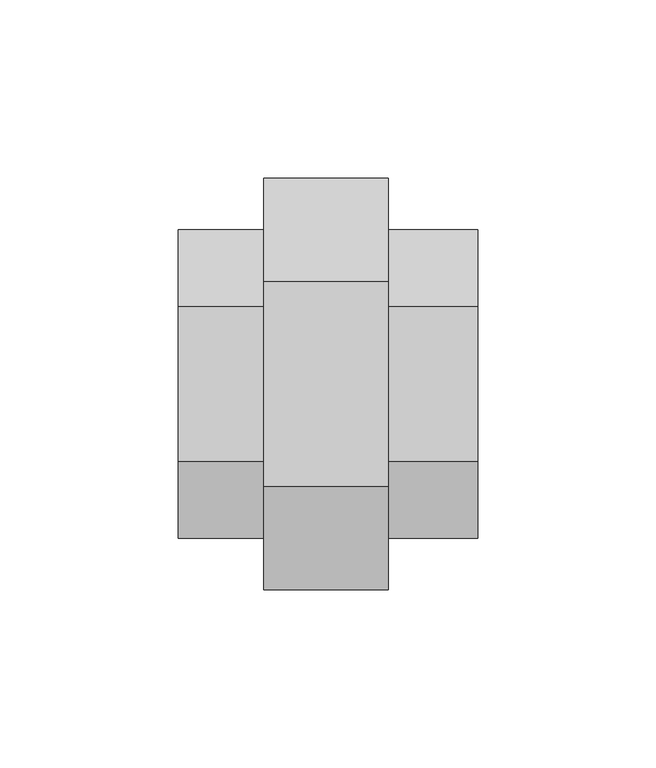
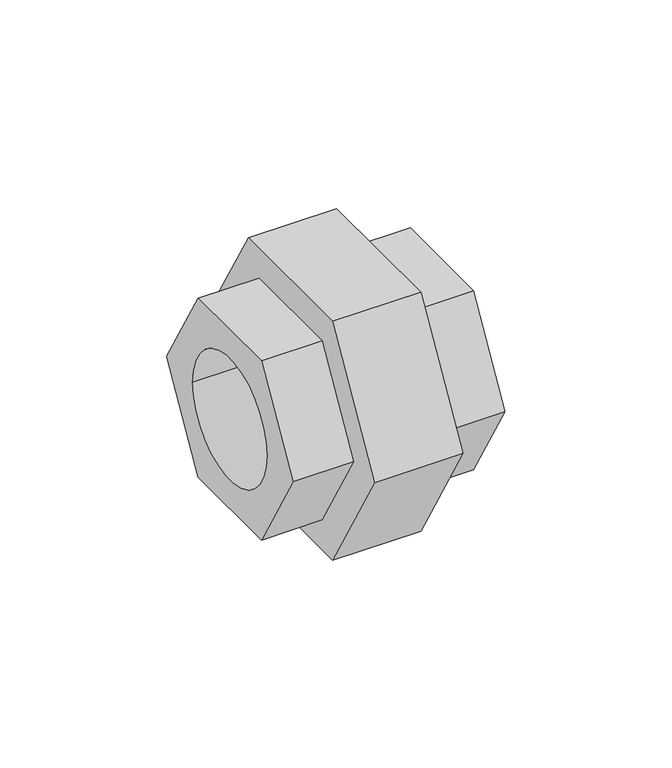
"""IFC4 building model written with IfcOpenShell, lengths in millimetres: pipe fitting geometry, 01011014 : Junções."""

from ifc_helpers import new_model, si_unit, frame, origin, place, context, project, spatial, polyline, circle_curve, source, transform, mapped, element, save
from ifc_brep_helpers import plane_surface, revolved_surface, advanced_brep


def pipe_fitting_a14911e6(model_context):
    return source(origin(), model_context, "Body", "AdvancedBrep", [
        advanced_brep(
        [(22.0, -28.8675135, 50.0), (22.0, -57.7350269, 0.0), (22.0, -28.8675135, -50.0), (22.0, 28.8675135, -50.0), (22.0, 57.7350269, 0.0), (22.0, 28.8675135, 50.0), (22.0, -21.6506351, 37.5), (22.0, 21.6506351, 37.5), (22.0, 43.3012702, 0.0), (22.0, 21.6506351, -37.5), (22.0, -21.6506351, -37.5), (22.0, -43.3012702, 0.0), (-13.0, -28.8675135, 50.0), (-13.0, 28.8675135, 50.0), (-13.0, 57.7350269, 0.0), (-13.0, 28.8675135, -50.0), (-13.0, -28.8675135, -50.0), (-13.0, -57.7350269, 0.0), (-13.0, 21.6506351, 37.5), (-13.0, -21.6506351, 37.5), (-13.0, -43.3012702, 0.0), (-13.0, -21.6506351, -37.5), (-13.0, 21.6506351, -37.5), (-13.0, 43.3012702, 0.0), (-37.0, -21.6506351, 37.5), (-37.0, 21.6506351, 37.5), (-37.0, 43.3012702, 0.0), (-37.0, 21.6506351, -37.5), (-37.0, -21.6506351, -37.5), (-37.0, -43.3012702, 0.0), (-37.0, -25.4, 0.0), (-37.0, 25.4, 0.0), (47.0, -21.6506351, 37.5), (47.0, -43.3012702, 0.0), (47.0, -21.6506351, -37.5), (47.0, 21.6506351, -37.5), (47.0, 43.3012702, 0.0), (47.0, 21.6506351, 37.5), (47.0, 25.4, 0.0), (47.0, -25.4, 0.0)],
        [
            (0, 1),
            (1, 2),
            (2, 3),
            (3, 4),
            (4, 5),
            (5, 0),
            (6, 7),
            (7, 8),
            (8, 9),
            (9, 10),
            (10, 11),
            (11, 6),
            (12, 13),
            (13, 14),
            (14, 15),
            (15, 16),
            (16, 17),
            (17, 12),
            (18, 19),
            (19, 20),
            (20, 21),
            (21, 22),
            (22, 23),
            (23, 18),
            (0, 12),
            (17, 1),
            (16, 2),
            (15, 3),
            (14, 4),
            (13, 5),
            (24, 25),
            (25, 26),
            (26, 27),
            (27, 28),
            (28, 29),
            (29, 24),
            (30, 31, circle_curve(frame((-37.0, 0.0, 0.0), z_axis=(1.0, 0.0, 0.0), x_axis=(0.0, 1.0, 0.0)), 25.4)),
            (31, 30, circle_curve(frame((-37.0, 0.0, 0.0), z_axis=(1.0, 0.0, 0.0), x_axis=(0.0, 1.0, 0.0)), 25.4)),
            (32, 33),
            (33, 34),
            (34, 35),
            (35, 36),
            (36, 37),
            (37, 32),
            (38, 39, circle_curve(frame((47.0, 0.0, 0.0), z_axis=(-1.0, 0.0, 0.0), x_axis=(0.0, 1.0, 0.0)), 25.4)),
            (39, 38, circle_curve(frame((47.0, 0.0, 0.0), z_axis=(-1.0, 0.0, 0.0), x_axis=(0.0, 1.0, 0.0)), 25.4)),
            (24, 19),
            (18, 25),
            (37, 7),
            (6, 32),
            (23, 26),
            (36, 8),
            (22, 27),
            (35, 9),
            (21, 28),
            (34, 10),
            (20, 29),
            (33, 11),
            (38, 31),
            (30, 39),
        ],
        [
            plane_surface(frame((22.0, -28.8675135, 50.0), z_axis=(1.0000000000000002, 0.0, 0.0), x_axis=(0.0, -0.5000000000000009, -0.8660254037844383))),
            plane_surface(frame((-13.0, -28.8675135, 50.0), z_axis=(-1.0000000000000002, 0.0, 0.0), x_axis=(0.0, 0.5000000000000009, 0.8660254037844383))),
            plane_surface(frame((22.0, -28.8675135, 50.0), z_axis=(0.0, -0.8660254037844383, 0.5000000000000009), x_axis=(-1.0, 0.0, 0.0))),
            plane_surface(frame((22.0, -57.7350269, 0.0), z_axis=(0.0, -0.866025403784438, -0.5000000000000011), x_axis=(-1.0, 0.0, 0.0))),
            plane_surface(frame((22.0, -28.8675135, -50.0), z_axis=(0.0, 0.0, -1.0), x_axis=(-1.0, 0.0, 0.0))),
            plane_surface(frame((22.0, 28.8675135, -50.0), z_axis=(0.0, 0.8660254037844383, -0.5000000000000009), x_axis=(-1.0, 0.0, 0.0))),
            plane_surface(frame((22.0, 57.7350269, 0.0), z_axis=(0.0, 0.8660254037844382, 0.500000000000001), x_axis=(-1.0, 0.0, 0.0))),
            plane_surface(frame((22.0, 28.8675135, 50.0), z_axis=(0.0, 0.0, 1.0), x_axis=(-1.0, 0.0, 0.0))),
            plane_surface(frame((-37.0, 0.0, 0.0), z_axis=(-1.0, 0.0, 0.0), x_axis=(0.0, 0.0, 1.0))),
            plane_surface(frame((47.0, 0.0, 0.0), z_axis=(1.0, 0.0, 0.0), x_axis=(0.0, 0.0, 1.0))),
            plane_surface(frame((-37.0, -21.6506351, 37.5), z_axis=(0.0, 0.0, 1.0), x_axis=(1.0, 0.0, 0.0))),
            plane_surface(frame((-37.0, 21.6506351, 37.5), z_axis=(0.0, 0.866025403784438, 0.500000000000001), x_axis=(1.0, 0.0, 0.0))),
            plane_surface(frame((-37.0, 43.3012702, 0.0), z_axis=(0.0, 0.8660254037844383, -0.5000000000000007), x_axis=(1.0, 0.0, 0.0))),
            plane_surface(frame((-37.0, 21.6506351, -37.5), z_axis=(0.0, 0.0, -1.0), x_axis=(1.0, 0.0, 0.0))),
            plane_surface(frame((-37.0, -21.6506351, -37.5), z_axis=(0.0, -0.8660254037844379, -0.5000000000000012), x_axis=(1.0, 0.0, 0.0))),
            plane_surface(frame((-37.0, -43.3012702, 0.0), z_axis=(0.0, -0.8660254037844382, 0.5000000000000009), x_axis=(1.0, 0.0, 0.0))),
            revolved_surface(polyline([(47.0, 25.4, 0.0), (-37.0, 25.4, 0.0)]), (-37.0, 0.0, 0.0), (1.0, 0.0, 0.0)),
        ],
        [
            (0, [[1, 2, 3, 4, 5, 6], [7, 8, 9, 10, 11, 12]]),
            (1, [[13, 14, 15, 16, 17, 18], [19, 20, 21, 22, 23, 24]]),
            (2, [[-1, 25, -18, 26]]),
            (3, [[-2, -26, -17, 27]]),
            (4, [[-3, -27, -16, 28]]),
            (5, [[-4, -28, -15, 29]]),
            (6, [[-5, -29, -14, 30]]),
            (7, [[-6, -30, -13, -25]]),
            (8, [[31, 32, 33, 34, 35, 36], [37, 38]]),
            (9, [[39, 40, 41, 42, 43, 44], [45, 46]]),
            (10, [[-31, 47, -19, 48]]),
            (10, [[-44, 49, -7, 50]]),
            (11, [[-32, -48, -24, 51]]),
            (11, [[-43, 52, -8, -49]]),
            (12, [[-33, -51, -23, 53]]),
            (12, [[-42, 54, -9, -52]]),
            (13, [[-34, -53, -22, 55]]),
            (13, [[-41, 56, -10, -54]]),
            (14, [[-35, -55, -21, 57]]),
            (14, [[-40, 58, -11, -56]]),
            (15, [[-36, -57, -20, -47]]),
            (15, [[-39, -50, -12, -58]]),
            (16, [[59, -37, 60, -45]]),
            (16, [[-59, -46, -60, -38]]),
        ],
    ),
    ])


if __name__ == "__main__":
    model = new_model("IFC4")
    model_context = context("Model", 3, world=origin())
    ifc_project = project(units=[si_unit("LENGTHUNIT", "METRE", prefix="MILLI")], contexts=[model_context])
    site = spatial("IfcSite", under=ifc_project)
    building = spatial("IfcBuilding", under=site)
    placement = place(None, origin())
    pipe_fitting_shape = pipe_fitting_a14911e6(model_context)
    element("IfcPipeFitting", 1, ObjectType="01011014 : Junções", at=placement, inside=building, context=model_context, shape_type="MappedRepresentation", body=[
        mapped(pipe_fitting_shape, transform((0.0, 0.0, 0.0), x_axis=(1.0, 0.0, 0.0), y_axis=(0.0, 1.0, 0.0), z_axis=(0.0, 0.0, 1.0))),
    ])
    save(model, "model.ifc")
